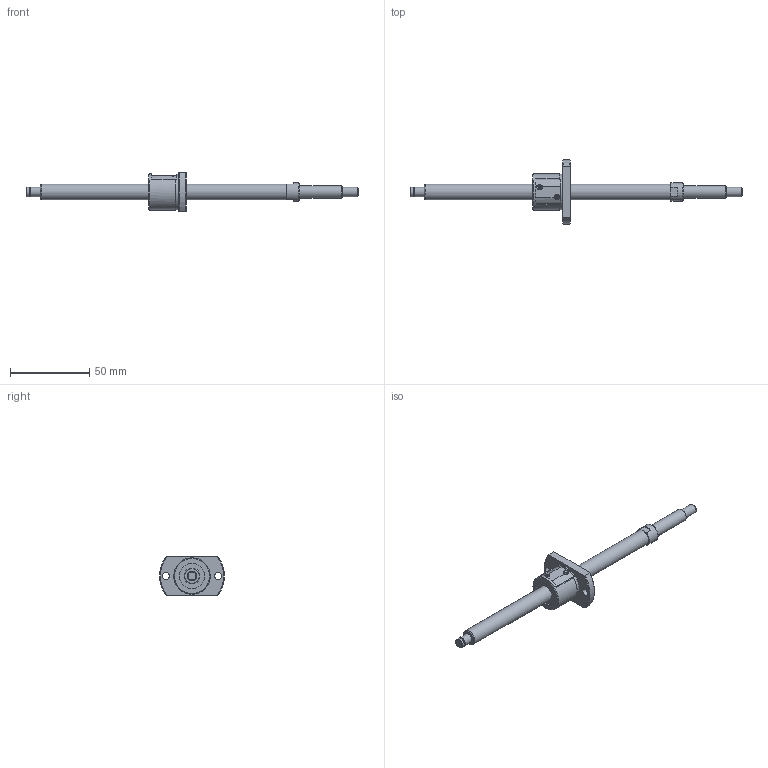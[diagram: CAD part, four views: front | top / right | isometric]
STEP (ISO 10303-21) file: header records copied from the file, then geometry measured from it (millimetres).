
FILE_DESCRIPTION(/* description */ ('STEP AP214'),/* implementation_level */ '2;1');
FILE_NAME(/* name */ 'SG1002-152R210C5B0X(68.5)',/* time_stamp */ '2026-07-24T15:13:43+02:00',/* author */ ('License CC BY-ND 4.0'),/* organization */ ('CADENAS'),/* preprocessor_version */ 'ST-DEVELOPER v20',/* originating_system */ 'PARTsolutions',/* authorisation */ ' ');
FILE_SCHEMA (('AUTOMOTIVE_DESIGN {1 0 10303 214 3 1 1}'));
Length unit declared in the file: millimetre
Products named in the file (3): SG1002-152R210C5B0X(68.5); SG1002-152R210C5B_shaft; SG1002 C5_nut
Assembly tree (2 placements, depth 2):
  SG1002-152R210C5B0X(68.5)
    SG1002-152R210C5B_shaft
    SG1002 C5_nut
Bounding box: 210 x 41 x 25 mm (x, y, z)
Volume: 25072.9 mm3; surface area: 11000 mm2
Topology: 2 solids, 2 shells, 79 faces, 188 edges, 123 vertices
Faces by surface type: plane 38, cylinder 26, cone 14, torus 1
Full cylindrical faces by diameter (mm): 4.5 x2, 5.7 x1, 6 x3, 8 x1, 10 x2, 11.5 x1, 16 x2, 22.6 x1, 23 x1
Entity records: 2197 total; most frequent: CARTESIAN_POINT 408, DIRECTION 374, ORIENTED_EDGE 306, AXIS2_PLACEMENT_3D 157, EDGE_CURVE 153, EDGE_LOOP 120, FACE_BOUND 120, VERTEX_POINT 113
